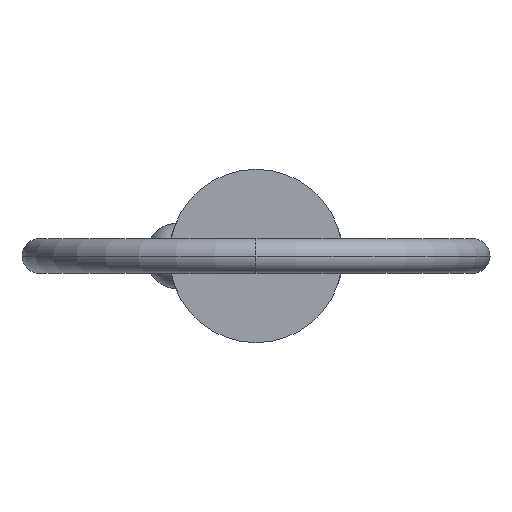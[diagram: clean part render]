
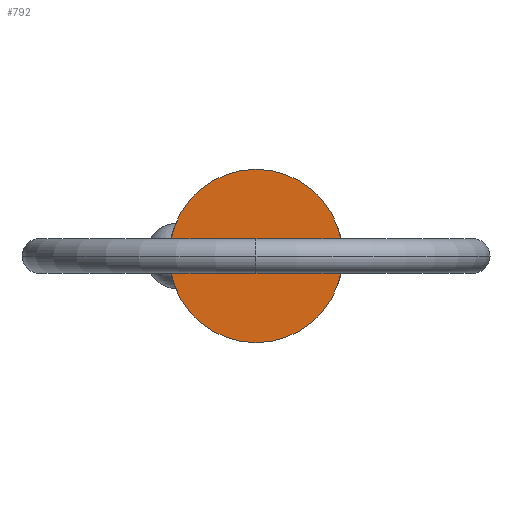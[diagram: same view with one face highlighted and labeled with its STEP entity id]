
A CAD part, left-side view. The second image highlights one B-rep face of the part: STEP entity #792.
In plain terms, the highlighted planar face has unit normal (-1, 0, 0).
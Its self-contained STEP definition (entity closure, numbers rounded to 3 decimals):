
#6 = DIRECTION ( 'NONE',  ( -1., 0., 0. ) ) ;
#63 = CARTESIAN_POINT ( 'NONE',  ( 0., 0., 0. ) ) ;
#68 = CARTESIAN_POINT ( 'NONE',  ( 0., 0., 6.35 ) ) ;
#81 = AXIS2_PLACEMENT_3D ( 'NONE', #63, #551, #744 ) ;
#83 = CIRCLE ( 'NONE', #846, 6.35 ) ;
#88 = ORIENTED_EDGE ( 'NONE', *, *, #871, .F. ) ;
#99 = EDGE_CURVE ( 'NONE', #558, #824, #273, .T. ) ;
#148 = ORIENTED_EDGE ( 'NONE', *, *, #99, .F. ) ;
#227 = CARTESIAN_POINT ( 'NONE',  ( 0., 0., -6.35 ) ) ;
#273 = CIRCLE ( 'NONE', #81, 6.35 ) ;
#488 = DIRECTION ( 'NONE',  ( 1., 0., 0. ) ) ;
#551 = DIRECTION ( 'NONE',  ( 1., 0., 0. ) ) ;
#558 = VERTEX_POINT ( 'NONE', #68 ) ;
#636 = DIRECTION ( 'NONE',  ( 0., 0., 1. ) ) ;
#744 = DIRECTION ( 'NONE',  ( 0., 0., -1. ) ) ;
#764 = FACE_OUTER_BOUND ( 'NONE', #835, .T. ) ;
#792 = ADVANCED_FACE ( 'NONE', ( #764 ), #825, .T. ) ;
#824 = VERTEX_POINT ( 'NONE', #227 ) ;
#825 = PLANE ( 'NONE',  #863 ) ;
#832 = CARTESIAN_POINT ( 'NONE',  ( 0., 0., 0. ) ) ;
#835 = EDGE_LOOP ( 'NONE', ( #88, #148 ) ) ;
#837 = CARTESIAN_POINT ( 'NONE',  ( 0., 0., 0. ) ) ;
#845 = DIRECTION ( 'NONE',  ( 0., 0., -1. ) ) ;
#846 = AXIS2_PLACEMENT_3D ( 'NONE', #832, #488, #845 ) ;
#863 = AXIS2_PLACEMENT_3D ( 'NONE', #837, #6, #636 ) ;
#871 = EDGE_CURVE ( 'NONE', #824, #558, #83, .T. ) ;
